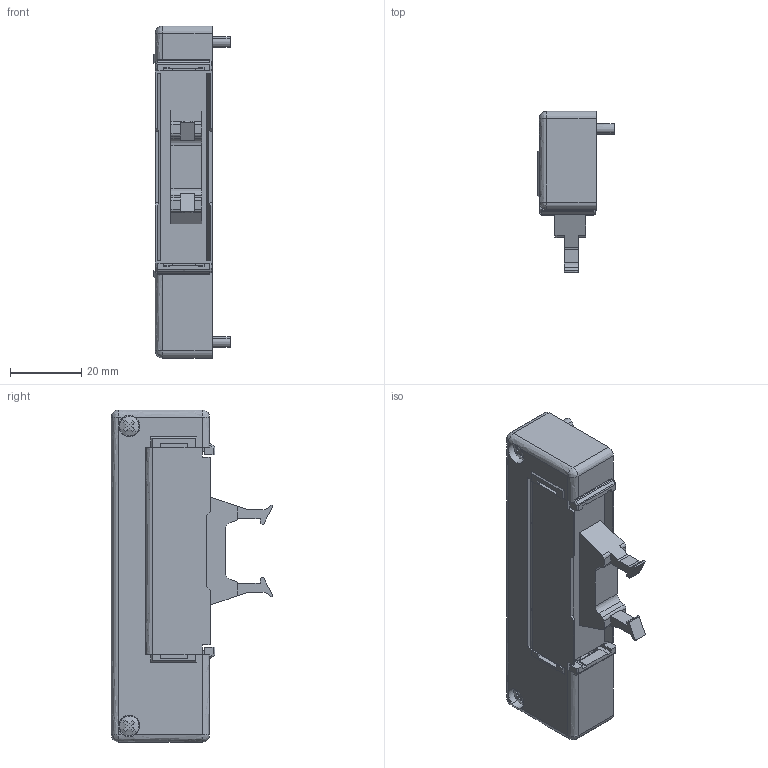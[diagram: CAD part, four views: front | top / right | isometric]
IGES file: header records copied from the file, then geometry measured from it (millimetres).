
Start section: ------------------------------------------------------------------------
Global section: file name: D:\ICADMX\tmp\trans3d_spg\CVICAD02.16560.FZX-F10xN_8778.igs; native system: spGate; preprocessor: ver12.6.6; author: Unknown; organization: Unknown; date: 200901.142530; units: millimetre
Bounding box: 21.4 x 45.2 x 93 mm (x, y, z)
Volume: 35513.9 mm3; surface area: 14357.5 mm2
Topology: 2 solids, 2 shells, 327 faces, 952 edges, 610 vertices
Faces by surface type: bspline 327
